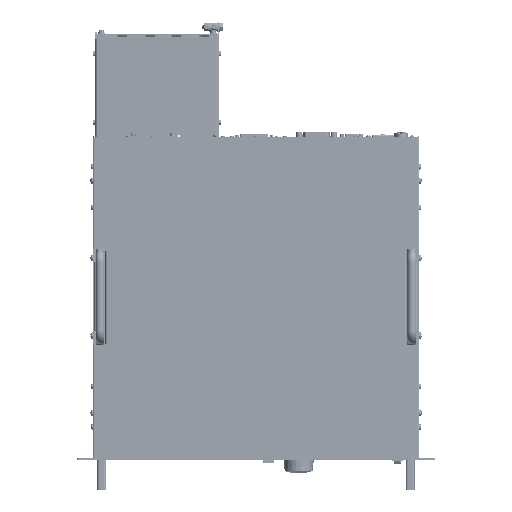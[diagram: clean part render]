
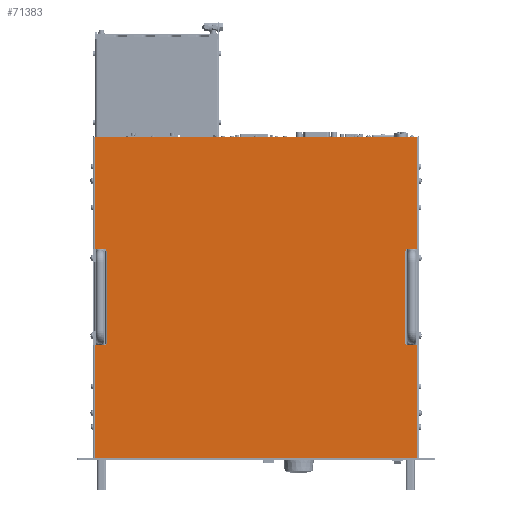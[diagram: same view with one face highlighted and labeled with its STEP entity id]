
A CAD part, top view. The second image highlights one B-rep face of the part: STEP entity #71383.
In plain terms, the highlighted planar face has unit normal (0, 0, 1).
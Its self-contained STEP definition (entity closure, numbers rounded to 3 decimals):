
#71383=ADVANCED_FACE('',(#144755),#144756,.F.);
#144755=FACE_OUTER_BOUND('',#252781,.T.);
#144756=PLANE('',#252782);
#252781=EDGE_LOOP('',(#454599,#454600,#454601,#454602,#454603,#454604,#454605,#454606,#454607,#454608,#454609,#454610,#454611,#454612,#454613,#454614,#454615,#454616,#454617,#454618));
#252782=AXIS2_PLACEMENT_3D('',#454619,#454620,#454621);
#454599=ORIENTED_EDGE('',*,*,#541838,.T.);
#454600=ORIENTED_EDGE('',*,*,#541858,.F.);
#454601=ORIENTED_EDGE('',*,*,#541859,.F.);
#454602=ORIENTED_EDGE('',*,*,#541502,.F.);
#454603=ORIENTED_EDGE('',*,*,#541824,.F.);
#454604=ORIENTED_EDGE('',*,*,#541487,.F.);
#454605=ORIENTED_EDGE('',*,*,#541813,.F.);
#454606=ORIENTED_EDGE('',*,*,#541860,.F.);
#454607=ORIENTED_EDGE('',*,*,#541856,.T.);
#454608=ORIENTED_EDGE('',*,*,#541851,.F.);
#454609=ORIENTED_EDGE('',*,*,#541848,.T.);
#454610=ORIENTED_EDGE('',*,*,#541861,.F.);
#454611=ORIENTED_EDGE('',*,*,#541789,.F.);
#454612=ORIENTED_EDGE('',*,*,#541477,.F.);
#454613=ORIENTED_EDGE('',*,*,#541778,.F.);
#454614=ORIENTED_EDGE('',*,*,#541497,.F.);
#454615=ORIENTED_EDGE('',*,*,#541862,.F.);
#454616=ORIENTED_EDGE('',*,*,#541863,.F.);
#454617=ORIENTED_EDGE('',*,*,#541835,.T.);
#454618=ORIENTED_EDGE('',*,*,#541843,.T.);
#454619=CARTESIAN_POINT('',(239.8,220.125,86.465));
#454620=DIRECTION('',(0.,0.,-1.0));
#454621=DIRECTION('',(1.0,0.,0.));
#541477=EDGE_CURVE('',#658257,#658259,#658260,.T.);
#541487=EDGE_CURVE('',#658275,#658277,#658278,.T.);
#541497=EDGE_CURVE('',#658293,#658295,#658296,.T.);
#541502=EDGE_CURVE('',#658302,#658304,#658305,.T.);
#541778=EDGE_CURVE('',#658295,#658257,#658735,.T.);
#541789=EDGE_CURVE('',#658259,#658750,#658751,.T.);
#541813=EDGE_CURVE('',#658783,#658275,#658785,.T.);
#541824=EDGE_CURVE('',#658277,#658302,#658800,.T.);
#541835=EDGE_CURVE('',#658811,#658814,#658816,.T.);
#541838=EDGE_CURVE('',#658821,#658818,#658822,.T.);
#541843=EDGE_CURVE('',#658814,#658821,#658827,.T.);
#541848=EDGE_CURVE('',#658833,#658831,#658834,.T.);
#541851=EDGE_CURVE('',#658833,#658837,#658838,.T.);
#541856=EDGE_CURVE('',#658843,#658837,#658845,.T.);
#541858=EDGE_CURVE('',#658847,#658818,#658848,.T.);
#541859=EDGE_CURVE('',#658304,#658847,#658849,.T.);
#541860=EDGE_CURVE('',#658843,#658783,#658850,.T.);
#541861=EDGE_CURVE('',#658750,#658831,#658851,.T.);
#541862=EDGE_CURVE('',#658852,#658293,#658853,.T.);
#541863=EDGE_CURVE('',#658811,#658852,#658854,.T.);
#658257=VERTEX_POINT('',#824553);
#658259=VERTEX_POINT('',#824555);
#658260=LINE('',#824556,#824557);
#658275=VERTEX_POINT('',#824575);
#658277=VERTEX_POINT('',#824577);
#658278=LINE('',#824578,#824579);
#658293=VERTEX_POINT('',#824597);
#658295=VERTEX_POINT('',#824599);
#658296=LINE('',#824600,#824601);
#658302=VERTEX_POINT('',#824608);
#658304=VERTEX_POINT('',#824610);
#658305=LINE('',#824611,#824612);
#658735=LINE('',#825163,#825164);
#658750=VERTEX_POINT('',#825184);
#658751=LINE('',#825185,#825186);
#658783=VERTEX_POINT('',#825232);
#658785=LINE('',#825235,#825236);
#658800=LINE('',#825256,#825257);
#658811=VERTEX_POINT('',#825272);
#658814=VERTEX_POINT('',#825276);
#658816=LINE('',#825278,#825279);
#658818=VERTEX_POINT('',#825281);
#658821=VERTEX_POINT('',#825285);
#658822=LINE('',#825286,#825287);
#658827=LINE('',#825292,#825293);
#658831=VERTEX_POINT('',#825298);
#658833=VERTEX_POINT('',#825301);
#658834=LINE('',#825302,#825303);
#658837=VERTEX_POINT('',#825306);
#658838=LINE('',#825307,#825308);
#658843=VERTEX_POINT('',#825313);
#658845=LINE('',#825316,#825317);
#658847=VERTEX_POINT('',#825319);
#658848=LINE('',#825320,#825321);
#658849=LINE('',#825322,#825323);
#658850=LINE('',#825324,#825325);
#658851=LINE('',#825326,#825327);
#658852=VERTEX_POINT('',#825328);
#658853=LINE('',#825329,#825330);
#658854=LINE('',#825331,#825332);
#824553=CARTESIAN_POINT('',(22.123,3.5,86.465));
#824555=CARTESIAN_POINT('',(22.123,155.5,86.465));
#824556=CARTESIAN_POINT('',(22.123,149.813,86.465));
#824557=VECTOR('',#922983,1.0);
#824575=CARTESIAN_POINT('',(22.123,284.75,86.465));
#824577=CARTESIAN_POINT('',(22.123,436.75,86.465));
#824578=CARTESIAN_POINT('',(22.123,290.438,86.465));
#824579=VECTOR('',#922999,1.0);
#824597=CARTESIAN_POINT('',(457.477,155.5,86.465));
#824599=CARTESIAN_POINT('',(457.477,3.5,86.465));
#824600=CARTESIAN_POINT('',(457.477,149.813,86.465));
#824601=VECTOR('',#923015,1.0);
#824608=CARTESIAN_POINT('',(457.477,436.75,86.465));
#824610=CARTESIAN_POINT('',(457.477,284.75,86.465));
#824611=CARTESIAN_POINT('',(457.477,290.438,86.465));
#824612=VECTOR('',#923023,1.0);
#825163=CARTESIAN_POINT('',(460.227,3.5,86.465));
#825164=VECTOR('',#923409,1.0);
#825184=CARTESIAN_POINT('',(37.373,155.5,86.465));
#825185=CARTESIAN_POINT('',(19.373,155.5,86.465));
#825186=VECTOR('',#923427,1.0);
#825232=CARTESIAN_POINT('',(37.373,284.75,86.465));
#825235=CARTESIAN_POINT('',(37.373,284.75,86.465));
#825236=VECTOR('',#923455,1.0);
#825256=CARTESIAN_POINT('',(19.373,436.75,86.465));
#825257=VECTOR('',#923473,1.0);
#825272=CARTESIAN_POINT('',(442.227,157.5,86.465));
#825276=CARTESIAN_POINT('',(440.477,157.5,86.465));
#825278=CARTESIAN_POINT('',(341.093,157.5,86.465));
#825279=VECTOR('',#923485,1.0);
#825281=CARTESIAN_POINT('',(442.227,282.75,86.465));
#825285=CARTESIAN_POINT('',(440.477,282.75,86.465));
#825286=CARTESIAN_POINT('',(341.093,282.75,86.465));
#825287=VECTOR('',#923487,1.0);
#825292=CARTESIAN_POINT('',(440.477,220.125,86.465));
#825293=VECTOR('',#923497,1.0);
#825298=CARTESIAN_POINT('',(37.373,157.5,86.465));
#825301=CARTESIAN_POINT('',(39.123,157.5,86.465));
#825302=CARTESIAN_POINT('',(138.507,157.5,86.465));
#825303=VECTOR('',#923500,1.0);
#825306=CARTESIAN_POINT('',(39.123,282.75,86.465));
#825307=CARTESIAN_POINT('',(39.123,220.125,86.465));
#825308=VECTOR('',#923504,1.0);
#825313=CARTESIAN_POINT('',(37.373,282.75,86.465));
#825316=CARTESIAN_POINT('',(138.507,282.75,86.465));
#825317=VECTOR('',#923512,1.0);
#825319=CARTESIAN_POINT('',(442.227,284.75,86.465));
#825320=CARTESIAN_POINT('',(442.227,284.75,86.465));
#825321=VECTOR('',#923513,1.0);
#825322=CARTESIAN_POINT('',(460.227,284.75,86.465));
#825323=VECTOR('',#923514,1.0);
#825324=CARTESIAN_POINT('',(37.373,282.75,86.465));
#825325=VECTOR('',#923515,1.0);
#825326=CARTESIAN_POINT('',(37.373,155.5,86.465));
#825327=VECTOR('',#923516,1.0);
#825328=CARTESIAN_POINT('',(442.227,155.5,86.465));
#825329=CARTESIAN_POINT('',(442.227,155.5,86.465));
#825330=VECTOR('',#923517,1.0);
#825331=CARTESIAN_POINT('',(442.227,157.5,86.465));
#825332=VECTOR('',#923518,1.0);
#922983=DIRECTION('',(0.0,1.0,0.));
#922999=DIRECTION('',(0.0,1.0,0.));
#923015=DIRECTION('',(0.0,-1.0,0.));
#923023=DIRECTION('',(0.0,-1.0,0.));
#923409=DIRECTION('',(-1.0,0.0,0.));
#923427=DIRECTION('',(1.0,0.0,0.0));
#923455=DIRECTION('',(-1.0,0.0,0.0));
#923473=DIRECTION('',(1.0,0.0,0.0));
#923485=DIRECTION('',(-1.0,0.0,0.0));
#923487=DIRECTION('',(1.0,0.0,0.0));
#923497=DIRECTION('',(0.0,1.0,0.));
#923500=DIRECTION('',(-1.0,0.0,0.0));
#923504=DIRECTION('',(0.0,1.0,0.));
#923512=DIRECTION('',(1.0,0.0,0.0));
#923513=DIRECTION('',(0.0,-1.0,0.));
#923514=DIRECTION('',(-1.0,0.0,0.0));
#923515=DIRECTION('',(0.0,1.0,0.));
#923516=DIRECTION('',(0.0,1.0,0.));
#923517=DIRECTION('',(1.0,0.0,0.0));
#923518=DIRECTION('',(0.0,-1.0,0.));
